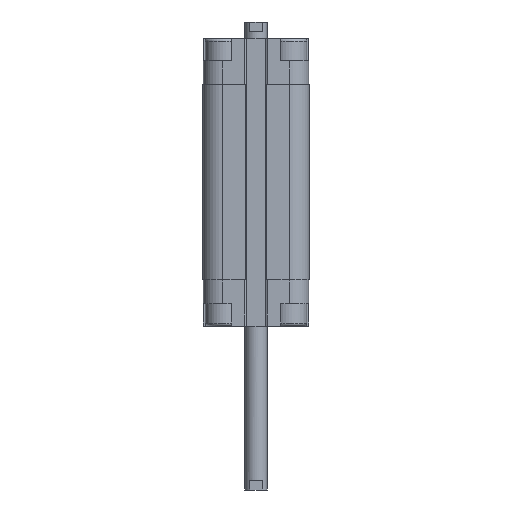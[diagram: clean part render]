
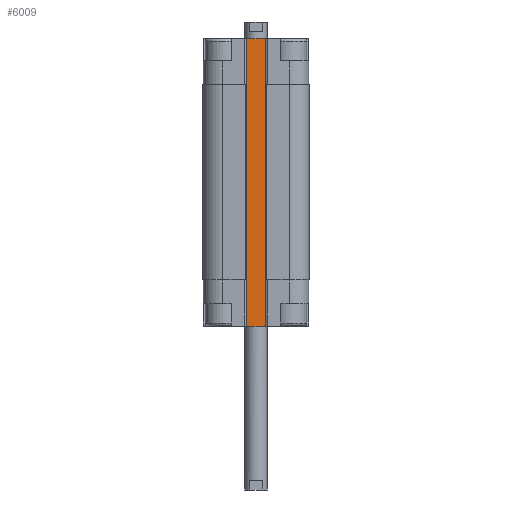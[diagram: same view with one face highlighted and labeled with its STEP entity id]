
A CAD part, front view. The second image highlights one B-rep face of the part: STEP entity #6009.
In plain terms, the highlighted planar face has unit normal (0, -1, 0).
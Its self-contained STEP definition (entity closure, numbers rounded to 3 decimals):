
#38 = CARTESIAN_POINT ( 'NONE',  ( -3., -9.5, -78. ) ) ;
#331 = DIRECTION ( 'NONE',  ( 1., 0., 0. ) ) ;
#944 = DIRECTION ( 'NONE',  ( 0., 0., 1. ) ) ;
#949 = CARTESIAN_POINT ( 'NONE',  ( -3.2, -9.5, -65.5 ) ) ;
#998 = CARTESIAN_POINT ( 'NONE',  ( -3., -9.5, -12.5 ) ) ;
#1316 = VERTEX_POINT ( 'NONE', #16124 ) ;
#1357 = EDGE_CURVE ( 'NONE', #17005, #15127, #17470, .T. ) ;
#1405 = ORIENTED_EDGE ( 'NONE', *, *, #5738, .F. ) ;
#1653 = ORIENTED_EDGE ( 'NONE', *, *, #14804, .F. ) ;
#1733 = DIRECTION ( 'NONE',  ( 0., 0., 1. ) ) ;
#1917 = CARTESIAN_POINT ( 'NONE',  ( 3.2, -9.5, -12.5 ) ) ;
#2090 = CARTESIAN_POINT ( 'NONE',  ( -3., -9.5, -78. ) ) ;
#2140 = DIRECTION ( 'NONE',  ( 0., 0., 1. ) ) ;
#2351 = DIRECTION ( 'NONE',  ( -1., 0., 0. ) ) ;
#2360 = LINE ( 'NONE', #5259, #5998 ) ;
#2435 = CARTESIAN_POINT ( 'NONE',  ( -3.2, -9.5, -12.5 ) ) ;
#2654 = LINE ( 'NONE', #3736, #16573 ) ;
#3157 = LINE ( 'NONE', #3329, #9265 ) ;
#3235 = LINE ( 'NONE', #11495, #8210 ) ;
#3284 = LINE ( 'NONE', #7413, #11280 ) ;
#3329 = CARTESIAN_POINT ( 'NONE',  ( -3.2, -9.5, -65.5 ) ) ;
#3423 = VERTEX_POINT ( 'NONE', #2435 ) ;
#3736 = CARTESIAN_POINT ( 'NONE',  ( -3.2, -9.5, -65.5 ) ) ;
#3770 = CARTESIAN_POINT ( 'NONE',  ( 9., -9.5, -12.5 ) ) ;
#3809 = VECTOR ( 'NONE', #15251, 1000. ) ;
#4057 = AXIS2_PLACEMENT_3D ( 'NONE', #998, #7737, #2351 ) ;
#4193 = VECTOR ( 'NONE', #16420, 1000. ) ;
#4319 = CARTESIAN_POINT ( 'NONE',  ( 3., -9.5, -78. ) ) ;
#4849 = EDGE_CURVE ( 'NONE', #16214, #8770, #10877, .T. ) ;
#5259 = CARTESIAN_POINT ( 'NONE',  ( 3., -9.5, -12.5 ) ) ;
#5316 = EDGE_CURVE ( 'NONE', #9999, #12563, #6895, .T. ) ;
#5528 = LINE ( 'NONE', #6957, #10396 ) ;
#5558 = ORIENTED_EDGE ( 'NONE', *, *, #11437, .F. ) ;
#5619 = ORIENTED_EDGE ( 'NONE', *, *, #4849, .F. ) ;
#5734 = CARTESIAN_POINT ( 'NONE',  ( 3., -9.5, -78. ) ) ;
#5738 = EDGE_CURVE ( 'NONE', #3423, #13578, #5528, .T. ) ;
#5779 = DIRECTION ( 'NONE',  ( 1., 0., 0. ) ) ;
#5997 = LINE ( 'NONE', #15512, #8318 ) ;
#5998 = VECTOR ( 'NONE', #13316, 1000. ) ;
#6009 = ADVANCED_FACE ( 'NONE', ( #9082 ), #14571, .T. ) ;
#6559 = EDGE_CURVE ( 'NONE', #10545, #8770, #3284, .T. ) ;
#6590 = EDGE_LOOP ( 'NONE', ( #15186, #5558, #1405, #1653, #12204, #13335, #7053, #7868, #13062, #15961, #5619, #16657 ) ) ;
#6861 = EDGE_CURVE ( 'NONE', #9999, #15127, #7215, .T. ) ;
#6895 = LINE ( 'NONE', #13794, #13822 ) ;
#6927 = CARTESIAN_POINT ( 'NONE',  ( 3., -9.5, -12.5 ) ) ;
#6957 = CARTESIAN_POINT ( 'NONE',  ( -3.2, -9.5, -12.5 ) ) ;
#7053 = ORIENTED_EDGE ( 'NONE', *, *, #5316, .T. ) ;
#7215 = LINE ( 'NONE', #38, #9297 ) ;
#7380 = EDGE_CURVE ( 'NONE', #15871, #10545, #3157, .T. ) ;
#7413 = CARTESIAN_POINT ( 'NONE',  ( 3.2, -9.5, -65.5 ) ) ;
#7737 = DIRECTION ( 'NONE',  ( 0., -1., 0. ) ) ;
#7868 = ORIENTED_EDGE ( 'NONE', *, *, #12985, .T. ) ;
#8141 = CARTESIAN_POINT ( 'NONE',  ( -3.2, -9.5, -65.5 ) ) ;
#8210 = VECTOR ( 'NONE', #2140, 1000. ) ;
#8318 = VECTOR ( 'NONE', #331, 1000. ) ;
#8770 = VERTEX_POINT ( 'NONE', #1917 ) ;
#8795 = DIRECTION ( 'NONE',  ( 1., 0., 0. ) ) ;
#8842 = DIRECTION ( 'NONE',  ( 0., 0., 1. ) ) ;
#8890 = CARTESIAN_POINT ( 'NONE',  ( 3., -9.5, -65.5 ) ) ;
#9082 = FACE_OUTER_BOUND ( 'NONE', #6590, .T. ) ;
#9265 = VECTOR ( 'NONE', #8795, 1000. ) ;
#9297 = VECTOR ( 'NONE', #1733, 1000. ) ;
#9769 = LINE ( 'NONE', #5734, #3809 ) ;
#9999 = VERTEX_POINT ( 'NONE', #2090 ) ;
#10396 = VECTOR ( 'NONE', #5779, 1000. ) ;
#10545 = VERTEX_POINT ( 'NONE', #12136 ) ;
#10877 = LINE ( 'NONE', #3770, #4193 ) ;
#11280 = VECTOR ( 'NONE', #8842, 1000. ) ;
#11437 = EDGE_CURVE ( 'NONE', #13578, #1316, #3235, .T. ) ;
#11495 = CARTESIAN_POINT ( 'NONE',  ( -3., -9.5, -12.5 ) ) ;
#12136 = CARTESIAN_POINT ( 'NONE',  ( 3.2, -9.5, -65.5 ) ) ;
#12174 = CARTESIAN_POINT ( 'NONE',  ( -3., -9.5, -12.5 ) ) ;
#12204 = ORIENTED_EDGE ( 'NONE', *, *, #1357, .T. ) ;
#12254 = VECTOR ( 'NONE', #13261, 1000. ) ;
#12563 = VERTEX_POINT ( 'NONE', #4319 ) ;
#12985 = EDGE_CURVE ( 'NONE', #12563, #15871, #9769, .T. ) ;
#13062 = ORIENTED_EDGE ( 'NONE', *, *, #7380, .T. ) ;
#13261 = DIRECTION ( 'NONE',  ( 1., 0., 0. ) ) ;
#13316 = DIRECTION ( 'NONE',  ( 0., 0., 1. ) ) ;
#13335 = ORIENTED_EDGE ( 'NONE', *, *, #6861, .F. ) ;
#13578 = VERTEX_POINT ( 'NONE', #12174 ) ;
#13794 = CARTESIAN_POINT ( 'NONE',  ( -3., -9.5, -78. ) ) ;
#13822 = VECTOR ( 'NONE', #14051, 1000. ) ;
#14051 = DIRECTION ( 'NONE',  ( 1., 0., 0. ) ) ;
#14571 = PLANE ( 'NONE',  #4057 ) ;
#14804 = EDGE_CURVE ( 'NONE', #17005, #3423, #2654, .T. ) ;
#15127 = VERTEX_POINT ( 'NONE', #16996 ) ;
#15186 = ORIENTED_EDGE ( 'NONE', *, *, #16624, .F. ) ;
#15251 = DIRECTION ( 'NONE',  ( 0., 0., 1. ) ) ;
#15290 = EDGE_CURVE ( 'NONE', #16214, #15840, #2360, .T. ) ;
#15512 = CARTESIAN_POINT ( 'NONE',  ( -3., -9.5, 0. ) ) ;
#15840 = VERTEX_POINT ( 'NONE', #16709 ) ;
#15871 = VERTEX_POINT ( 'NONE', #8890 ) ;
#15961 = ORIENTED_EDGE ( 'NONE', *, *, #6559, .T. ) ;
#16124 = CARTESIAN_POINT ( 'NONE',  ( -3., -9.5, 0. ) ) ;
#16214 = VERTEX_POINT ( 'NONE', #6927 ) ;
#16420 = DIRECTION ( 'NONE',  ( 1., 0., 0. ) ) ;
#16573 = VECTOR ( 'NONE', #944, 1000. ) ;
#16624 = EDGE_CURVE ( 'NONE', #1316, #15840, #5997, .T. ) ;
#16657 = ORIENTED_EDGE ( 'NONE', *, *, #15290, .T. ) ;
#16709 = CARTESIAN_POINT ( 'NONE',  ( 3., -9.5, 0. ) ) ;
#16996 = CARTESIAN_POINT ( 'NONE',  ( -3., -9.5, -65.5 ) ) ;
#17005 = VERTEX_POINT ( 'NONE', #8141 ) ;
#17470 = LINE ( 'NONE', #949, #12254 ) ;
